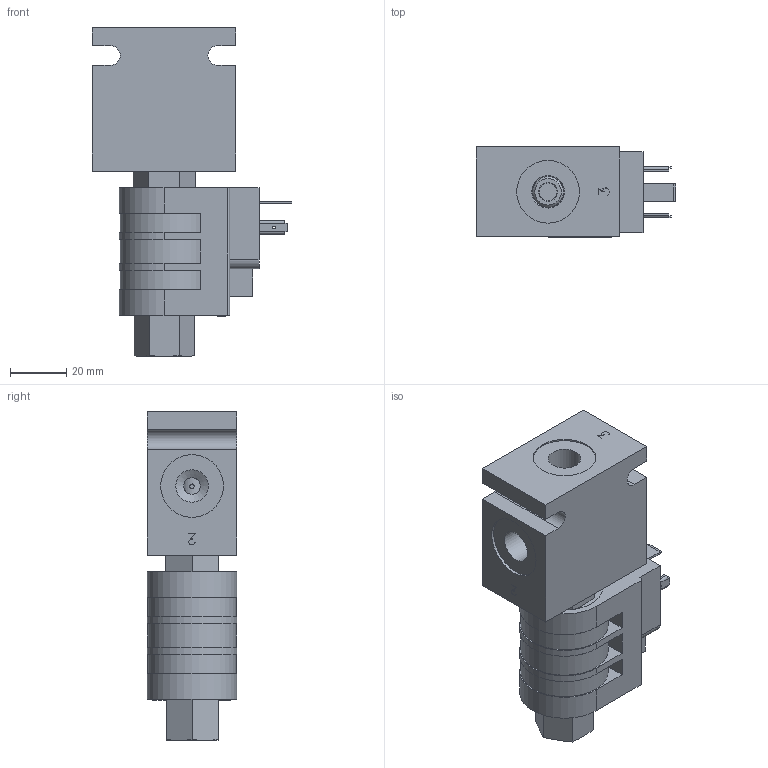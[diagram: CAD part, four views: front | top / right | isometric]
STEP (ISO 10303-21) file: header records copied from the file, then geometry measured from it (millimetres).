
FILE_DESCRIPTION( ( 'Unknown' ), '1' );
FILE_NAME( 'G:/Graphic Design/Graphic Design 2/Data Sheets/PROPORTIONAL CONTROLS/2_STEP/ECPRV00-A3.stp', 'Unknown', ( 'Unknown' ), ( 'Unknown' ), 'PSStep 17.0.49', 'Unknown', ' ' );
FILE_SCHEMA( ( 'AUTOMOTIVE_DESIGN { 1 0 10303 214 1 1 1 1 }' ) );
Length unit declared in the file: millimetre
Products named in the file (22): PHC; ECPRV00; ECPRV00-3D Full1; ECPRV00-3D Full2; ECPRV00-3D Full3; ECPRV00-3D Full4; Delta_1_2_nut_LONG1; Assem1; B-DMCA3
Assembly tree (21 placements, depth 3):
  Assem1
    B-DMCA3
    ECPRV00
      ECPRV00-3D Full1
      ECPRV00-3D Full2
      ECPRV00-3D Full3
      ECPRV00-3D Full4
      Delta_1_2_nut_LONG1
    PHC
      PHC
      PHC
      PHC
      PHC
      PHC
      PHC
      PHC
      PHC
      PHC
      PHC
      PHC
      PHC
      PHC
Bounding box: 70.61 x 31.77 x 116.39 mm (x, y, z)
Volume: 134721.9 mm3; surface area: 36041.9 mm2
Topology: 19 solids, 19 shells, 493 faces, 1229 edges, 800 vertices
Faces by surface type: plane 334, cylinder 92, cone 61, torus 6
Full cylindrical faces by diameter (mm): 0.2 x3, 0.994 x2, 1.549 x4, 1.575 x4, 2.54 x1, 6 x2, 6.364 x1, 8.174 x1, 8.707 x1, 10.333 x1, 10.338 x1, 10.719 x1, 10.941 x1, 10.942 x2, 11.151 x1, 11.43 x1, 11.5 x6, 12.09 x2, 12.548 x3, 12.7 x1, 12.76 x1, 13.005 x1, 13.3 x1, 13.805 x1, 14.348 x2, 16.48 x1, 22.22 x2, 26.975 x3
Entity records: 18387 total; most frequent: CARTESIAN_POINT 3009, ORIENTED_EDGE 2220, DIRECTION 2171, EDGE_CURVE 1110, VERTEX_POINT 780, AXIS2_PLACEMENT_3D 740, LINE 691, VECTOR 691
